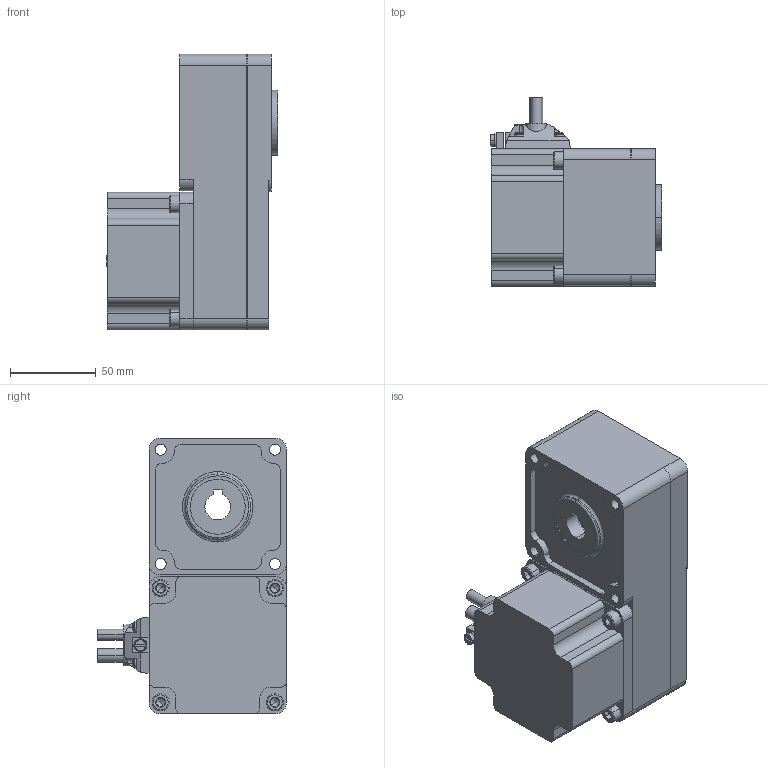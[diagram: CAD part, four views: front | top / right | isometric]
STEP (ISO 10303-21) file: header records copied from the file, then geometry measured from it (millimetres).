
FILE_DESCRIPTION(('starvars output'),'2;1');
FILE_NAME('BLF460S-50FR.stp','15:06:10 2015/05/11',( 'Thomas Industrial Network Germany GmbH'),( 'Thomas Industrial Network Germany GmbH'),'unknown preprocess','ACIS' ,'unknown authorization');
FILE_SCHEMA(('AUTOMOTIVE_DESIGN_CC2 {UNKNOWN IMPLEMENTATION LEVEL}'));
Length unit declared in the file: millimetre
Products named in the file (1): PRODUCT_ID_296
Bounding box: 100 x 110 x 160.5 mm (x, y, z)
Volume: 880828.3 mm3; surface area: 76890.9 mm2
Topology: 1 solids, 1 shells, 395 faces, 1030 edges, 651 vertices
Faces by surface type: plane 203, cylinder 116, cone 44, torus 24, bspline 8
Entity records: 14459 total; most frequent: CARTESIAN_POINT 2557, ORIENTED_EDGE 2044, DIRECTION 1567, EDGE_CURVE 1022, VERTEX_POINT 651, AXIS2_PLACEMENT_3D 541, VECTOR 485, LINE 485
